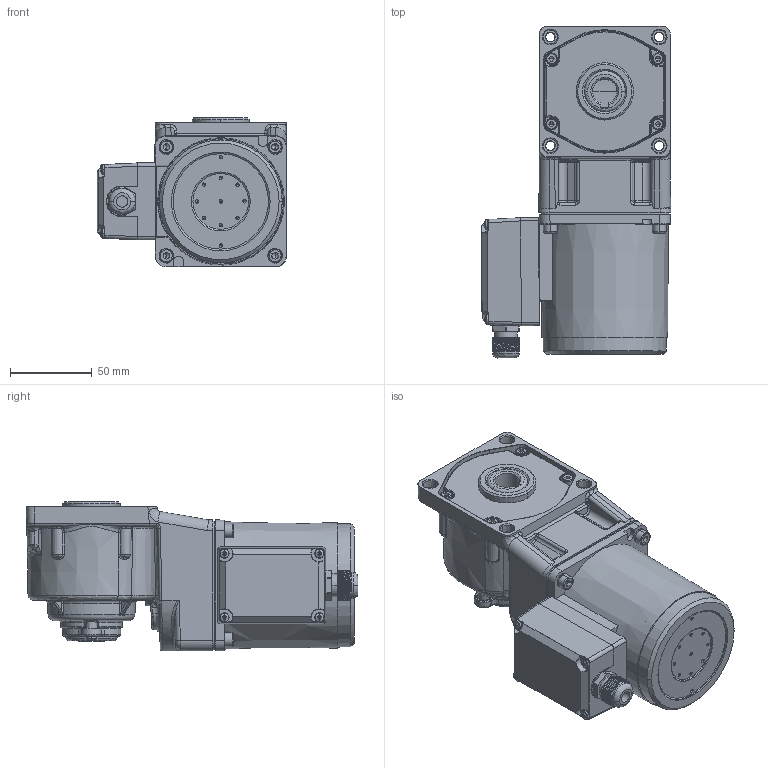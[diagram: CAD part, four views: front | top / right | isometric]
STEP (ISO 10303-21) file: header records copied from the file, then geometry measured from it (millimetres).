
FILE_DESCRIPTION (( 'STEP AP203' ), '1' );
FILE_NAME ('4IK25GN-CT(4GN3RC-180RC)ÐÂ.STEP', '2022-02-25T05:30:01', ( 'PC' ), ( 'Microsoft' ), 'SwSTEP 2.0', 'SolidWorks 2014', '' );
FILE_SCHEMA (( 'CONFIG_CONTROL_DESIGN' ));
Length unit declared in the file: millimetre
Products named in the file (15): zd-4gn1000rc-504-001-20211209（实心外形）; M3^70TSJXHG(2)_80JXH; cross recessed pan head screws gb_GB_CROSS_SCREWS_TYPE1 M3X6-6  H type-N; 70TSJXHG(2)^80JXH; 80眻褒眊裔; 80JXH; 80諾陑怀堤粣; 80GYJK; hexagon socket head cap screws gb_GB_FASTENER_SCREWS_HSHCS M4X12-N; M14SJQ^70TSJXHG(2)_80JXH; 4IK25GN-CT(4GN3RC-180RC)陔; M5X20-S^4ik25gn-c-4gn3-180rc_asm(2)_80RC; 80TSJXHJK_1; TSJXH^70TSJXHG(2)_80JXH; 80綴傷裔
Assembly tree (24 placements, depth 5):
  4IK25GN-CT(4GN3RC-180RC)陔
    80綴傷裔
    zd-4gn1000rc-504-001-20211209（实心外形）
    cross recessed pan head screws gb_GB_CROSS_SCREWS_TYPE1 M3X6-6  H type-N  x2
    80眻褒眊裔
    80諾陑怀堤粣
    hexagon socket head cap screws gb_GB_FASTENER_SCREWS_HSHCS M4X12-N  x4
    M5X20-S^4ik25gn-c-4gn3-180rc_asm(2)_80RC  x4
    80GYJK
      80TSJXHJK_1
      80JXH
        70TSJXHG(2)^80JXH
          TSJXH^70TSJXHG(2)_80JXH
          M14SJQ^70TSJXHG(2)_80JXH
          M3^70TSJXHG(2)_80JXH  x4
Bounding box: 115.74 x 202.79 x 91.5 mm (x, y, z)
Volume: 728435 mm3; surface area: 170561.4 mm2
Topology: 21 solids, 24 shells, 3039 faces, 6978 edges, 3970 vertices
Faces by surface type: cone 1121, cylinder 929, plane 479, bspline 436, torus 54, sphere 20
Entity records: 85879 total; most frequent: CARTESIAN_POINT 46541, ORIENTED_EDGE 8478, DIRECTION 6934, EDGE_CURVE 4239, AXIS2_PLACEMENT_3D 2737, VERTEX_POINT 2534, EDGE_LOOP 1901, ADVANCED_FACE 1799
